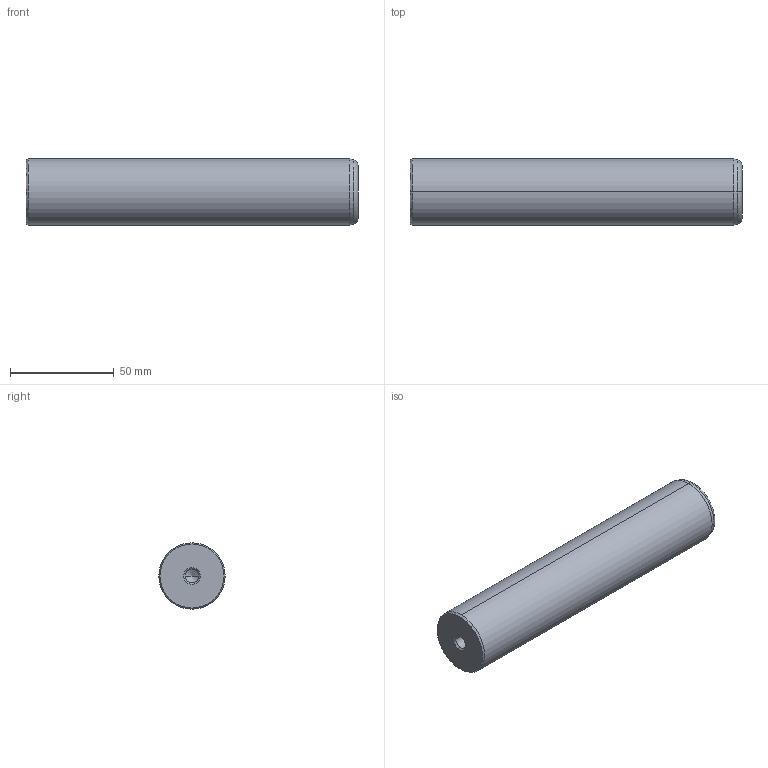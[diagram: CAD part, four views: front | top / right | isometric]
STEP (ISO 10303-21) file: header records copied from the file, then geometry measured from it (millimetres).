
FILE_DESCRIPTION(('CATIA V5 STEP Exchange'),'2;1');
FILE_NAME('C:\Users\Utente\Desktop\IO LAVORO\3D X SITO CF\X SITO\720\720-32x160.stp','2021-01-01T12:19:26+00:00',('none'),('none'),'CATIA Version 5 Release 20 GA (IN-10)','CATIA V5 STEP AP203','none');
FILE_SCHEMA(('CONFIG_CONTROL_DESIGN'));
Length unit declared in the file: millimetre
Products named in the file (1): 720-32x160
Bounding box: 160 x 32 x 32 mm (x, y, z)
Volume: 126627.1 mm3; surface area: 18477.7 mm2
Topology: 1 solids, 1 shells, 22 faces, 56 edges, 34 vertices
Faces by surface type: cone 12, cylinder 6, plane 2, torus 2
Entity records: 755 total; most frequent: CARTESIAN_POINT 216, ORIENTED_EDGE 104, DIRECTION 89, EDGE_CURVE 52, AXIS2_PLACEMENT_3D 50, VERTEX_POINT 34, CIRCLE 27, EDGE_LOOP 24
